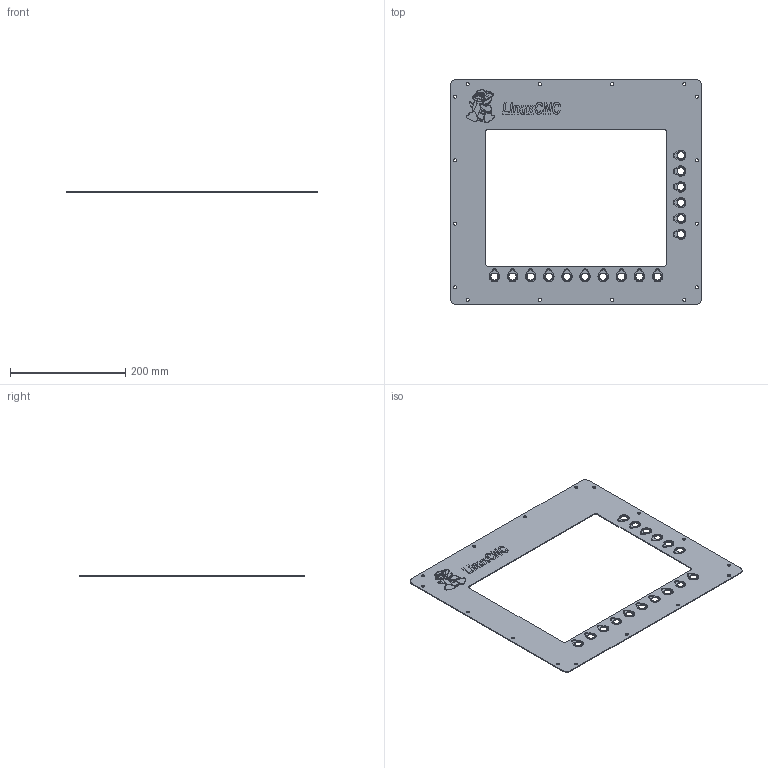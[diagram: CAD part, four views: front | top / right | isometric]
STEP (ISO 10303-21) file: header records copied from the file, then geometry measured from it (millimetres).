
FILE_DESCRIPTION((''),'2;1');
FILE_NAME('0S03-01-20-031_PLECH','2023-05-19T',('Zdrazil'),(''),'PRO/ENGINEER BY PARAMETRIC TECHNOLOGY CORPORATION, 2005450','PRO/ENGINEER BY PARAMETRIC TECHNOLOGY CORPORATION, 2005450','');
FILE_SCHEMA(('CONFIG_CONTROL_DESIGN'));
Length unit declared in the file: millimetre
Products named in the file (1): 0S03-01-20-031_PLECH
Bounding box: 435 x 390 x 1.5 mm (x, y, z)
Volume: 138770 mm3; surface area: 191898 mm2
Topology: 1 solids, 1 shells, 713 faces, 1890 edges, 1260 vertices
Faces by surface type: extrusion 346, plane 231, cylinder 136
Entity records: 28820 total; most frequent: CARTESIAN_POINT 12001, ORIENTED_EDGE 3780, DIRECTION 2550, EDGE_CURVE 1890, VECTOR 1272, VERTEX_POINT 1260, B_SPLINE_CURVE_WITH_KNOTS 1038, LINE 926
